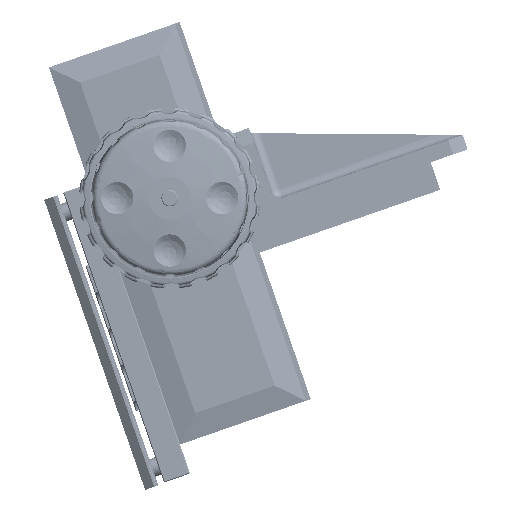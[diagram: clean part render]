
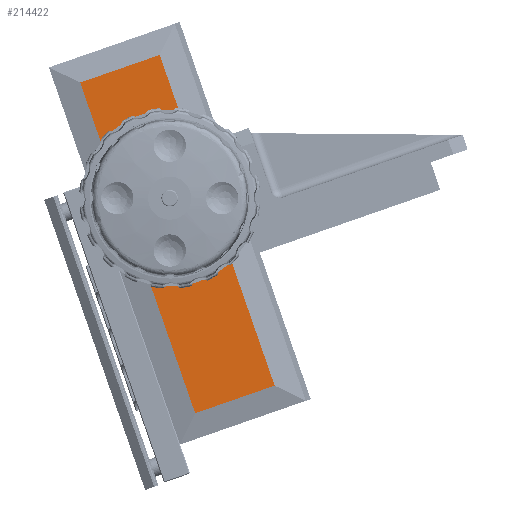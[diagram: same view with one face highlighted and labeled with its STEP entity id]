
A CAD part, front view. The second image highlights one B-rep face of the part: STEP entity #214422.
In plain terms, the highlighted planar face has unit normal (0, -1, 0) as drawn and (-1, 0, 0) by its records, which use the part's own axes.
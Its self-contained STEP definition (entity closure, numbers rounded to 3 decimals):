
#157903=CARTESIAN_POINT('',(-40.,23.175,-11.875));
#157904=DIRECTION('',(-1.,0.,0.));
#157905=DIRECTION('',(0.,0.,1.));
#157906=AXIS2_PLACEMENT_3D('',#157903,#157904,#157905);
#157908=CARTESIAN_POINT('',(-40.,23.175,-11.875));
#157909=DIRECTION('',(-1.,0.,0.));
#157910=DIRECTION('',(0.,0.,-1.));
#157911=AXIS2_PLACEMENT_3D('',#157908,#157909,#157910);
#157913=DIRECTION('',(0.,-1.,0.));
#157914=VECTOR('',#157913,27.4);
#157915=CARTESIAN_POINT('',(-40.,35.4,-57.));
#157916=LINE('',#157915,#157914);
#157917=DIRECTION('',(0.,0.,1.));
#157918=VECTOR('',#157917,114.);
#157919=CARTESIAN_POINT('',(-40.,35.4,-57.));
#157920=LINE('',#157919,#157918);
#157921=DIRECTION('',(0.,-1.,0.));
#157922=VECTOR('',#157921,27.4);
#157923=CARTESIAN_POINT('',(-40.,35.4,57.));
#157924=LINE('',#157923,#157922);
#157925=DIRECTION('',(0.,0.,-1.));
#157926=VECTOR('',#157925,114.);
#157927=CARTESIAN_POINT('',(-40.,8.,57.));
#157928=LINE('',#157927,#157926);
#210523=CARTESIAN_POINT('',(-40.,23.175,-3.35));
#210524=CARTESIAN_POINT('',(-40.,23.175,-20.4));
#210525=VERTEX_POINT('',#210523);
#210526=VERTEX_POINT('',#210524);
#210770=CARTESIAN_POINT('',(-40.,35.4,-57.));
#210771=CARTESIAN_POINT('',(-40.,8.,-57.));
#210772=VERTEX_POINT('',#210770);
#210773=VERTEX_POINT('',#210771);
#210774=CARTESIAN_POINT('',(-40.,35.4,57.));
#210775=CARTESIAN_POINT('',(-40.,8.,57.));
#210776=VERTEX_POINT('',#210774);
#210777=VERTEX_POINT('',#210775);
#214402=CARTESIAN_POINT('',(-40.,0.,-65.));
#214403=DIRECTION('',(-1.,0.,0.));
#214404=DIRECTION('',(0.,0.,1.));
#214405=AXIS2_PLACEMENT_3D('',#214402,#214403,#214404);
#214406=PLANE('',#214405);
#214408=ORIENTED_EDGE('',*,*,#214407,.F.);
#214410=ORIENTED_EDGE('',*,*,#214409,.T.);
#214411=ORIENTED_EDGE('',*,*,#214392,.T.);
#214413=ORIENTED_EDGE('',*,*,#214412,.T.);
#214414=EDGE_LOOP('',(#214408,#214410,#214411,#214413));
#214415=FACE_OUTER_BOUND('',#214414,.F.);
#214417=ORIENTED_EDGE('',*,*,#214416,.T.);
#214419=ORIENTED_EDGE('',*,*,#214418,.T.);
#214420=EDGE_LOOP('',(#214417,#214419));
#214421=FACE_BOUND('',#214420,.F.);
#214422=ADVANCED_FACE('',(#214415,#214421),#214406,.T.);
#157907=CIRCLE('',#157906,8.525);
#157912=CIRCLE('',#157911,8.525);
#214392=EDGE_CURVE('',#210776,#210777,#157924,.T.);
#214407=EDGE_CURVE('',#210772,#210773,#157916,.T.);
#214409=EDGE_CURVE('',#210772,#210776,#157920,.T.);
#214412=EDGE_CURVE('',#210777,#210773,#157928,.T.);
#214416=EDGE_CURVE('',#210525,#210526,#157907,.T.);
#214418=EDGE_CURVE('',#210526,#210525,#157912,.T.);
